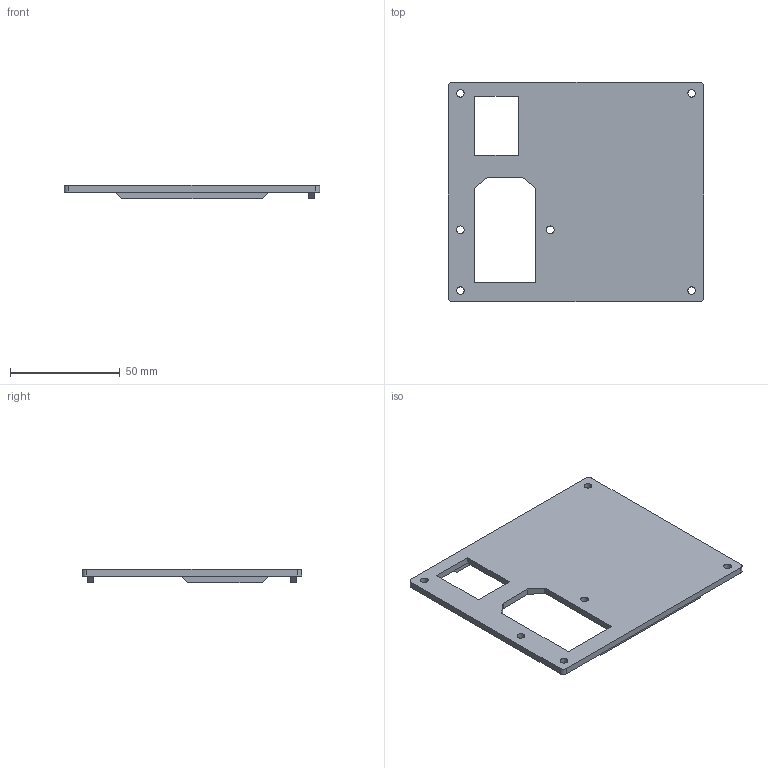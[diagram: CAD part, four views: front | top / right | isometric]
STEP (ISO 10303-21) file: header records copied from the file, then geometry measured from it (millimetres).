
FILE_DESCRIPTION(/* description */ (''),/* implementation_level */ '2;1');
FILE_NAME(/* name */ 'D:\3D печать\Мои проекты\Archy MK 2\STEP\крышка бокса модулей.stp',/* time_stamp */ '2019-03-20T22:09:43+06:00',/* author */ ('Пользователь'),/* organization */ (''),/* preprocessor_version */ 'ST-DEVELOPER v16.5',/* originating_system */ 'Autodesk Inventor 2017',/* authorisation */ '');
FILE_SCHEMA (('AUTOMOTIVE_DESIGN { 1 0 10303 214 3 1 1 }'));
Length unit declared in the file: millimetre
Products named in the file (1): крышка \X2\0431043E043A04410430
\X0\ модулей
Bounding box: 116.5 x 100 x 6 mm (x, y, z)
Volume: 30743.5 mm3; surface area: 22723.5 mm2
Topology: 1 solids, 1 shells, 41 faces, 108 edges, 72 vertices
Faces by surface type: plane 31, cylinder 10
Full cylindrical faces by diameter (mm): 3.5 x6
Entity records: 1288 total; most frequent: CARTESIAN_POINT 216, DIRECTION 206, ORIENTED_EDGE 204, EDGE_CURVE 102, LINE 82, VECTOR 82, VERTEX_POINT 72, EDGE_LOOP 66
